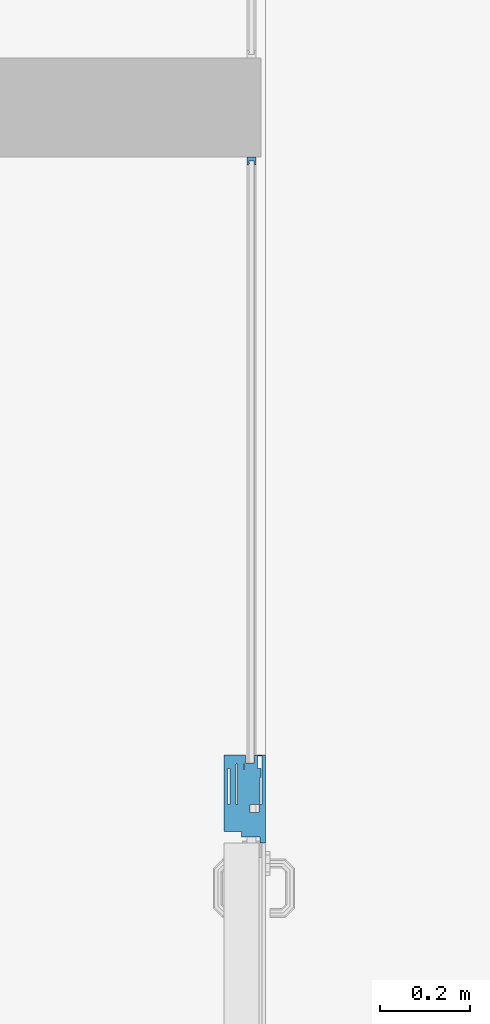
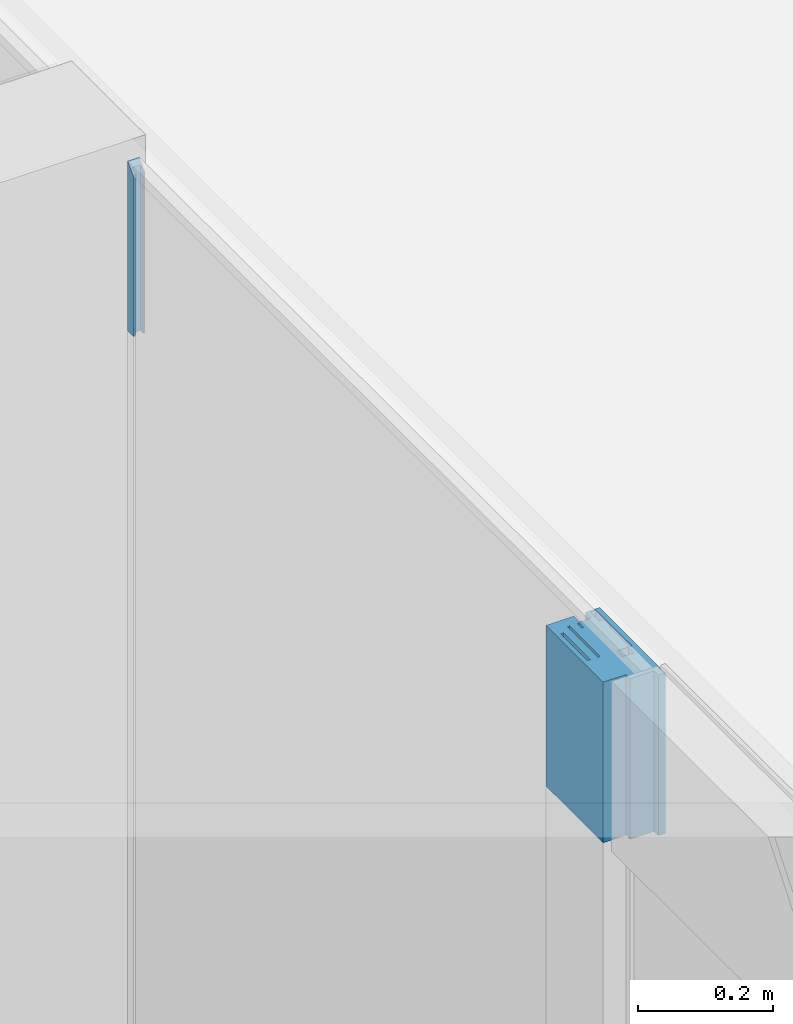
# One storey, part 16 of 79: 2 members, 1 element without a shape of its own.
"""IFC2X3 building model written with IfcOpenShell, lengths in millimetres."""

from ifc_helpers import new_model, entity, si_unit, converted_unit, derived_unit, money_unit, direction, frame, origin_with_axes, place, context, subcontext, project, spatial, faceted_brep, source, transform, mapped, material, material_list, type_object, element, aggregate, save


model = new_model("IFC2X3")

# Units and contexts
model_context = context("Model", 3, precision=0.01, world=origin_with_axes(), true_north=direction((0.0, 1.0)))
body_context = subcontext(model_context, "Body", "Model", "MODEL_VIEW")
ifc_project = project(units=[si_unit("LENGTHUNIT", "METRE", prefix="MILLI"), si_unit("AREAUNIT", "SQUARE_METRE"), si_unit("VOLUMEUNIT", "CUBIC_METRE"), converted_unit("PLANEANGLEUNIT", "DEGREE", entity("IfcPlaneAngleMeasure", 0.0174532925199), si_unit("PLANEANGLEUNIT", "RADIAN"), dimensions=[0, 0, 0, 0, 0, 0, 0]), si_unit("SOLIDANGLEUNIT", "STERADIAN"), money_unit("EUR"), converted_unit("TIMEUNIT", "Year", entity("IfcTimeMeasure", 31556926.0), si_unit("TIMEUNIT", "SECOND"), dimensions=[0, 0, 1, 0, 0, 0, 0]), si_unit("MASSUNIT", "GRAM", prefix="KILO"), si_unit("THERMODYNAMICTEMPERATUREUNIT", "DEGREE_CELSIUS"), si_unit("LUMINOUSINTENSITYUNIT", "LUMEN"), si_unit("ENERGYUNIT", "JOULE", prefix="MEGA"), derived_unit("THERMALCONDUCTANCEUNIT", [(si_unit("POWERUNIT", "WATT"), 1), (si_unit("LENGTHUNIT", "METRE"), -1), (si_unit("THERMODYNAMICTEMPERATUREUNIT", "KELVIN"), -1)]), derived_unit("SPECIFICHEATCAPACITYUNIT", [(si_unit("ENERGYUNIT", "JOULE"), 1), (si_unit("MASSUNIT", "GRAM", prefix="KILO"), -1), (si_unit("THERMODYNAMICTEMPERATUREUNIT", "KELVIN"), -1)]), derived_unit("MASSDENSITYUNIT", [(si_unit("MASSUNIT", "GRAM", prefix="KILO"), 1), (si_unit("VOLUMEUNIT", "CUBIC_METRE"), -1)])], contexts=[model_context])

# Site, building, storey
site_placement = place(None, origin_with_axes())
site = spatial("IfcSite", under=ifc_project, at=site_placement, Name="L.Koidula tn 11b", CompositionType="ELEMENT")
building_placement = place(site_placement, origin_with_axes())
building = spatial("IfcBuilding", under=site, at=building_placement, Name="Rakvere Riigigümnaasium", CompositionType="ELEMENT")
storey_placement = place(building_placement, frame((0.0, 0.0, 3720.0), z_axis=(0.0, 0.0, 1.0), x_axis=(1.0, 0.0, 0.0)))
storey = spatial("IfcBuildingStorey", under=building, at=storey_placement, Name="2.korrus +3,72", CompositionType="ELEMENT", Elevation=3720.0)

# Curtain wall, members
curtain_wall_type = type_object("IfcCurtainWallType", Name="Curtain Wall Type", PredefinedType="NOTDEFINED")
curtain_wall_placement = place(storey_placement, frame((41130.9157939, 20570.4555219, 2.41342252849e-05), z_axis=(0.0, 0.0, 1.0), x_axis=(1.0, 0.0, 0.0)))
curtain_wall = element("IfcCurtainWall", 1, at=curtain_wall_placement, inside=storey, type_object=curtain_wall_type, Name="SKLF-13")
ifc_material_1 = material(Name="Klaasvill")
ifc_material_2 = material(Name="Alumiiniumprofiil")
ifc_material_list_1 = material_list([ifc_material_1, ifc_material_2])
member_type_1 = type_object("IfcMemberType", Name="Boundary Frame 17 x 1", PredefinedType="MULLION")
shared_shape_1 = source(origin_with_axes(), body_context, "Body", "Brep", [
    faceted_brep([(-2.00001937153, -5.0, 0.0), (-2.00001937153, -5.0, 305.999980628), (-8.35001937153, -5.0, 299.649980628), (-8.35001937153, -5.0, 0.0), (-2.00001937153, 9.01614452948, 0.0), (-2.00001937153, 9.01614452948, 305.999980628), (-8.35001937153, 9.01614452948, 299.649980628), (-8.35001937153, 9.01614452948, 0.0)], [[[0, 1, 2, 3]], [[4, 5, 1, 0]], [[1, 5, 6, 2]], [[3, 2, 6, 7]], [[0, 3, 7, 4]], [[7, 6, 5, 4]]]),
    faceted_brep([(-11.987414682, 9.01614444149, 0.0), (-11.987414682, 9.01614444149, 296.012585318), (-12.004489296, 7.03075035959, 295.995510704), (-12.004489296, 7.03075035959, 0.0), (-15.5126239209, 9.01614444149, 0.0), (-15.5126239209, 9.01614444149, 292.487376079), (-15.7655837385, 8.03853257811, 292.234416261), (-15.4955493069, 7.03075035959, 292.504450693), (-14.75780152, 6.29300257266, 293.24219848), (-13.7500193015, 6.02296814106, 294.249980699), (-12.742237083, 6.29300257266, 295.257762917), (-12.742237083, 6.29300257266, 0.0), (-13.7500193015, 6.02296814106, 0.0), (-14.75780152, 6.29300257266, 0.0), (-15.4955493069, 7.03075035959, 0.0), (-15.7655837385, 8.03853257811, 0.0)], [[[0, 1, 2, 3]], [[4, 5, 1, 0]], [[1, 5, 6, 7, 8, 9, 10, 2]], [[3, 2, 10, 11]], [[0, 3, 11, 12, 13, 14, 15, 4]], [[15, 6, 5, 4]], [[14, 7, 6, 15]], [[13, 8, 7, 14]], [[12, 9, 8, 13]], [[11, 10, 9, 12]]]),
    faceted_brep([(0.0, -8.0, 0.0), (0.0, -8.0, 308.0), (-17.0000193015, -8.0, 290.999980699), (-17.0000193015, -8.0, 0.0), (0.0, 12.0, 0.0), (0.0, 12.0, 308.0), (-17.0000193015, 12.0, 290.999980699), (-17.0000193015, 9.01614444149, 290.999980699), (-15.5126239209, 9.01614444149, 292.487376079), (-11.987414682, 9.01614444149, 296.012585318), (-8.35001937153, 9.01614452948, 299.649980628), (-2.00001930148, 9.01614444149, 305.999980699), (-2.00001930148, -5.0, 305.999980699), (-8.35001937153, -5.0, 299.649980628), (-17.0000193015, -5.0, 290.999980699), (-17.0000193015, -5.0, 0.0), (-8.35001937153, -5.0, 0.0), (-2.00001930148, -5.0, 0.0), (-2.00001930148, 9.01614444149, 0.0), (-8.35001937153, 9.01614452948, 0.0), (-11.987414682, 9.01614444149, 0.0), (-15.5126239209, 9.01614444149, 0.0), (-17.0000193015, 9.01614444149, 0.0), (-17.0000193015, 12.0, 0.0)], [[[0, 1, 2, 3]], [[4, 5, 1, 0]], [[1, 5, 6, 7, 8, 9, 10, 11, 12, 13, 14, 2]], [[3, 2, 14, 15]], [[0, 3, 15, 16, 17, 18, 19, 20, 21, 22, 23, 4]], [[23, 6, 5, 4]], [[22, 7, 6, 23]], [[21, 8, 7, 22]], [[20, 9, 8, 21]], [[19, 10, 9, 20]], [[18, 11, 10, 19]], [[17, 12, 11, 18]], [[16, 13, 12, 17]], [[15, 14, 13, 16]]]),
])
member_1_placement = place(curtain_wall_placement, frame((0.0851877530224, 1990.00000339, 2199.99997587), z_axis=(0.0, 0.0, 1.0), x_axis=(-4.28079159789e-05, -0.999999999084, 0.0)))
member_1 = element("IfcMember", 2, at=member_1_placement, type_object=member_type_1, material=ifc_material_list_1, Name="PV-SKLF-20-raam", ObjectType="MULLION", context=body_context, shape_type="MappedRepresentation", body=[
    mapped(shared_shape_1, transform((0.0, 0.0, 0.0), x_axis=(-1.0, 0.0, 0.0), y_axis=(0.0, -1.0, 0.0), z_axis=(0.0, 0.0, 1.0))),
])
ifc_material_3 = material(Name="Puit")
ifc_material_4 = material(Name="MDF")
ifc_material_list_2 = material_list([ifc_material_3, ifc_material_4, ifc_material_1, ifc_material_2])
member_type_2 = type_object("IfcMemberType", Name="Siseklaasfassaad - Ukseraam-2 195 x 29", PredefinedType="MULLION")
shared_shape_2 = source(origin_with_axes(), body_context, "Body", "Brep", [
    faceted_brep([(0.0, 50.8404412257, 0.0), (0.0, 50.8404412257, 290.999980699), (0.0, -15.2764635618, 290.999980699), (0.0, -15.2764635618, 0.0), (-29.9999995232, 50.8404412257, 0.0), (-29.9999995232, 50.8404412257, 290.999980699), (-30.0000008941, 23.8404411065, 290.999980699), (-41.9954210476, 23.8404411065, 290.999980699), (-41.9954210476, -8.15955847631, 290.999980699), (-41.9954210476, -15.2764635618, 290.999980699), (-41.8573788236, -15.2764635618, 290.999980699), (-41.8573788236, -15.2764635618, 0.0), (-41.9954210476, -15.2764635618, 0.0), (-41.9954210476, -8.15955847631, 0.0), (-41.9954210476, 23.8404411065, 0.0), (-30.0000008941, 23.8404411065, 0.0)], [[[0, 1, 2, 3]], [[4, 5, 1, 0]], [[1, 5, 6, 7, 8, 9, 10, 2]], [[3, 2, 10, 11]], [[0, 3, 11, 12, 13, 14, 15, 4]], [[15, 6, 5, 4]], [[14, 7, 6, 15]], [[13, 8, 7, 14]], [[12, 9, 8, 13]], [[11, 10, 9, 12]]]),
    faceted_brep([(137.859682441, -21.159534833, 0.0), (137.859682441, -21.159534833, 290.999980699), (137.859682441, -29.159535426, 290.999980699), (137.859682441, -29.159535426, 0.0), (30.0029064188, -21.1595377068, 0.0), (30.0029064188, -21.1595377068, 290.999980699), (-52.9999994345, -21.1595377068, 290.999980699), (-52.9999994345, -29.1595584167, 290.999980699), (-52.9999994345, -29.1595584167, 0.0), (-52.9999994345, -21.1595377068, 0.0)], [[[0, 1, 2, 3]], [[4, 5, 1, 0]], [[1, 5, 6, 7, 2]], [[3, 2, 7, 8]], [[0, 3, 8, 9, 4]], [[9, 6, 5, 4]], [[8, 7, 6, 9]]]),
    faceted_brep([(137.859682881, 54.8404422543, 0.0), (137.859682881, 54.8404422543, 290.999980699), (121.188402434, 54.8405744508, 290.999980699), (121.188402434, 54.8405744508, 0.0), (137.859682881, 62.8404399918, 0.0), (137.859682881, 62.8404399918, 290.999980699), (-28.0000003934, 62.8404428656, 290.999980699), (-28.0000003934, 54.8404422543, 290.999980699), (-1.12771575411e-06, 54.8404422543, 290.999980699), (30.0029066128, 54.8404422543, 290.999980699), (109.859683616, 54.8405744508, 290.999980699), (109.859683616, 54.8405744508, 0.0), (30.0029066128, 54.8404422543, 0.0), (-1.12771575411e-06, 54.8404422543, 0.0), (-28.0000003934, 54.8404422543, 0.0), (-28.0000003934, 62.8404428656, 0.0)], [[[0, 1, 2, 3]], [[4, 5, 1, 0]], [[1, 5, 6, 7, 8, 9, 10, 2]], [[3, 2, 10, 11]], [[0, 3, 11, 12, 13, 14, 15, 4]], [[15, 6, 5, 4]], [[14, 7, 6, 15]], [[13, 8, 7, 14]], [[12, 9, 8, 13]], [[11, 10, 9, 12]]]),
    faceted_brep([(120.859682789, 33.3330734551, 0.0), (120.859682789, 33.3330734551, 290.999980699), (120.859682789, 20.34054937, 290.999980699), (120.859682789, 20.34054937, 0.0), (30.0029064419, 33.3311238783, 0.0), (30.0029064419, 33.3311238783, 290.999980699), (30.0029050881, 20.3386011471, 290.999980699), (107.859682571, 20.338601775, 290.999980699), (107.859682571, 20.338601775, 0.0), (30.0029050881, 20.3386011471, 0.0)], [[[0, 1, 2, 3]], [[4, 5, 1, 0]], [[1, 5, 6, 7, 2]], [[3, 2, 7, 8]], [[0, 3, 8, 9, 4]], [[9, 6, 5, 4]], [[8, 7, 6, 9]]]),
    faceted_brep([(120.859682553, 49.8405506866, 0.0), (120.859682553, 49.8405506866, 290.999980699), (120.859682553, 36.8405491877, 290.999980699), (120.859682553, 36.8405491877, 0.0), (109.8596833, 49.8405506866, 0.0), (109.8596833, 49.8405506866, 290.999980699), (30.0046927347, 49.8404410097, 290.999980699), (30.0046927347, 36.8404411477, 290.999980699), (30.0046927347, 36.8404411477, 0.0), (30.0046927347, 49.8404410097, 0.0)], [[[0, 1, 2, 3]], [[4, 5, 1, 0]], [[1, 5, 6, 7, 2]], [[3, 2, 7, 8]], [[0, 3, 8, 9, 4]], [[9, 6, 5, 4]], [[8, 7, 6, 9]]]),
    faceted_brep([(107.859682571, 20.338601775, 0.0), (107.859682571, 20.338601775, 290.999980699), (107.859682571, -5.15955767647, 290.999980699), (107.859682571, -5.15955767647, 0.0), (30.0029050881, 20.338601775, 0.0), (30.0029050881, 20.338601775, 290.999980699), (30.0029050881, 5.24044086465, 290.999980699), (30.0029050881, -15.1595587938, 290.999980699), (30.0029050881, -17.1595580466, 290.999980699), (89.8596820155, -17.1595604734, 290.999980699), (107.859682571, -17.1595604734, 290.999980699), (107.859682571, -11.1594268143, 290.999980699), (107.859682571, -11.1594268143, 0.0), (107.859682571, -17.1595604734, 0.0), (89.8596820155, -17.1595604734, 0.0), (30.0029050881, -17.1595580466, 0.0), (30.0029050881, -15.1595587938, 0.0), (30.0029050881, 5.24044086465, 0.0)], [[[0, 1, 2, 3]], [[4, 5, 1, 0]], [[1, 5, 6, 7, 8, 9, 10, 11, 2]], [[3, 2, 11, 12]], [[0, 3, 12, 13, 14, 15, 16, 17, 4]], [[17, 6, 5, 4]], [[16, 7, 6, 17]], [[15, 8, 7, 16]], [[14, 9, 8, 15]], [[13, 10, 9, 14]], [[12, 11, 10, 13]]]),
    faceted_brep([(30.0029058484, 54.8404413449, 0.0), (30.0029058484, 54.8404413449, 290.999980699), (30.0046927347, 49.8404410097, 290.999980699), (30.0046927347, 49.8404410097, 0.0), (0.0, 54.8404413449, 0.0), (0.0, 54.8404413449, 290.999980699), (-27.9999994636, 54.8404413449, 290.999980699), (-27.9999994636, 62.8404415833, 290.999980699), (-29.9999995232, 62.8404415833, 290.999980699), (-29.9999995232, 54.8404413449, 290.999980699), (-29.9999995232, 50.8404412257, 290.999980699), (0.0, 50.8404412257, 290.999980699), (0.0, -15.2764635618, 290.999980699), (-41.8573788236, -15.2764635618, 290.999980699), (-41.8573788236, -17.1595580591, 290.999980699), (-54.9999995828, -17.1595580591, 290.999980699), (-54.9999995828, -20.2336043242, 290.999980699), (-54.9999995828, -29.1595584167, 290.999980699), (-53.0000007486, -29.1595584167, 290.999980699), (-53.0000007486, -21.1595363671, 290.999980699), (30.0029058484, -21.1595363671, 290.999980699), (30.0029050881, -17.1595580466, 290.999980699), (30.0029058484, -15.1595579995, 290.999980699), (12.999999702, -15.1595579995, 290.999980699), (12.999999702, 5.24044206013, 290.999980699), (30.0029058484, 5.24044206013, 290.999980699), (30.0029050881, 20.3386011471, 290.999980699), (30.0029064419, 33.3311238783, 290.999980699), (30.0046927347, 36.8404411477, 290.999980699), (30.0046927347, 36.8404411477, 0.0), (30.0029064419, 33.3311238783, 0.0), (30.0029050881, 20.3386011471, 0.0), (30.0029058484, 5.24044206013, 0.0), (12.999999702, 5.24044206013, 0.0), (12.999999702, -15.1595579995, 0.0), (30.0029058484, -15.1595579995, 0.0), (30.0029050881, -17.1595580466, 0.0), (30.0029058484, -21.1595363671, 0.0), (-53.0000007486, -21.1595363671, 0.0), (-53.0000007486, -29.1595584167, 0.0), (-54.9999995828, -29.1595584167, 0.0), (-54.9999995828, -20.2336043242, 0.0), (-54.9999995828, -17.1595580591, 0.0), (-41.8573788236, -17.1595580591, 0.0), (-41.8573788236, -15.2764635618, 0.0), (0.0, -15.2764635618, 0.0), (0.0, 50.8404412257, 0.0), (-29.9999995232, 50.8404412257, 0.0), (-29.9999995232, 54.8404413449, 0.0), (-29.9999995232, 62.8404415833, 0.0), (-27.9999994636, 62.8404415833, 0.0), (-27.9999994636, 54.8404413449, 0.0)], [[[0, 1, 2, 3]], [[4, 5, 1, 0]], [[1, 5, 6, 7, 8, 9, 10, 11, 12, 13, 14, 15, 16, 17, 18, 19, 20, 21, 22, 23, 24, 25, 26, 27, 28, 2]], [[3, 2, 28, 29]], [[0, 3, 29, 30, 31, 32, 33, 34, 35, 36, 37, 38, 39, 40, 41, 42, 43, 44, 45, 46, 47, 48, 49, 50, 51, 4]], [[51, 6, 5, 4]], [[50, 7, 6, 51]], [[49, 8, 7, 50]], [[48, 9, 8, 49]], [[47, 10, 9, 48]], [[46, 11, 10, 47]], [[45, 12, 11, 46]], [[44, 13, 12, 45]], [[43, 14, 13, 44]], [[42, 15, 14, 43]], [[41, 16, 15, 42]], [[40, 17, 16, 41]], [[39, 18, 17, 40]], [[38, 19, 18, 39]], [[37, 20, 19, 38]], [[36, 21, 20, 37]], [[35, 22, 21, 36]], [[34, 23, 22, 35]], [[33, 24, 23, 34]], [[32, 25, 24, 33]], [[31, 26, 25, 32]], [[30, 27, 26, 31]], [[29, 28, 27, 30]]]),
    faceted_brep([(139.859682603, 62.8404415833, 0.0), (139.859682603, 62.8404415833, 290.999980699), (139.859682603, 15.2404414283, 290.999980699), (139.859682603, 15.2404414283, 0.0), (137.859683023, 62.8404415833, 0.0), (137.859683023, 62.8404415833, 290.999980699), (137.859681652, 54.8405734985, 290.999980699), (121.188400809, 54.8405734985, 290.999980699), (109.859683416, 54.8405734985, 290.999980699), (109.859683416, 53.8404414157, 290.999980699), (109.859683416, 49.8405505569, 290.999980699), (120.859681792, 49.8405505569, 290.999980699), (120.859682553, 36.8405491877, 290.999980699), (120.859682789, 33.3330734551, 290.999980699), (120.859682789, 20.34054937, 290.999980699), (120.859681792, 17.2404410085, 290.999980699), (107.859682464, 17.2404410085, 290.999980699), (107.859682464, -5.1595578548, 290.999980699), (107.859682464, -11.1594263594, 290.999980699), (107.859682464, -17.1595594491, 290.999980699), (89.8596821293, -17.1595594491, 290.999980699), (89.8596821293, -19.1595576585, 290.999980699), (107.859682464, -19.1595576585, 290.999980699), (109.859682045, -19.1595576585, 290.999980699), (109.859682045, -17.1595594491, 290.999980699), (109.859682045, -11.1594263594, 290.999980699), (137.859681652, -11.1594263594, 290.999980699), (137.859682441, -21.159534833, 290.999980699), (137.859681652, -29.1595363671, 290.999980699), (139.859682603, -29.1595363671, 290.999980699), (139.859682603, -5.1595578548, 290.999980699), (137.859681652, -5.1595578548, 290.999980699), (122.859682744, -5.1595578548, 290.999980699), (122.859682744, 15.2404414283, 290.999980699), (122.859682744, 15.2404414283, 0.0), (122.859682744, -5.1595578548, 0.0), (137.859681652, -5.1595578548, 0.0), (139.859682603, -5.1595578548, 0.0), (139.859682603, -29.1595363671, 0.0), (137.859681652, -29.1595363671, 0.0), (137.859682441, -21.159534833, 0.0), (137.859681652, -11.1594263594, 0.0), (109.859682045, -11.1594263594, 0.0), (109.859682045, -17.1595594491, 0.0), (109.859682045, -19.1595576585, 0.0), (107.859682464, -19.1595576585, 0.0), (89.8596821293, -19.1595576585, 0.0), (89.8596821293, -17.1595594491, 0.0), (107.859682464, -17.1595594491, 0.0), (107.859682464, -11.1594263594, 0.0), (107.859682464, -5.1595578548, 0.0), (107.859682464, 17.2404410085, 0.0), (120.859681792, 17.2404410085, 0.0), (120.859682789, 20.34054937, 0.0), (120.859682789, 33.3330734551, 0.0), (120.859682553, 36.8405491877, 0.0), (120.859681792, 49.8405505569, 0.0), (109.859683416, 49.8405505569, 0.0), (109.859683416, 53.8404414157, 0.0), (109.859683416, 54.8405734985, 0.0), (121.188400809, 54.8405734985, 0.0), (137.859681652, 54.8405734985, 0.0)], [[[0, 1, 2, 3]], [[4, 5, 1, 0]], [[1, 5, 6, 7, 8, 9, 10, 11, 12, 13, 14, 15, 16, 17, 18, 19, 20, 21, 22, 23, 24, 25, 26, 27, 28, 29, 30, 31, 32, 33, 2]], [[3, 2, 33, 34]], [[0, 3, 34, 35, 36, 37, 38, 39, 40, 41, 42, 43, 44, 45, 46, 47, 48, 49, 50, 51, 52, 53, 54, 55, 56, 57, 58, 59, 60, 61, 4]], [[61, 6, 5, 4]], [[60, 7, 6, 61]], [[59, 8, 7, 60]], [[58, 9, 8, 59]], [[57, 10, 9, 58]], [[56, 11, 10, 57]], [[55, 12, 11, 56]], [[54, 13, 12, 55]], [[53, 14, 13, 54]], [[52, 15, 14, 53]], [[51, 16, 15, 52]], [[50, 17, 16, 51]], [[49, 18, 17, 50]], [[48, 19, 18, 49]], [[47, 20, 19, 48]], [[46, 21, 20, 47]], [[45, 22, 21, 46]], [[44, 23, 22, 45]], [[43, 24, 23, 44]], [[42, 25, 24, 43]], [[41, 26, 25, 42]], [[40, 27, 26, 41]], [[39, 28, 27, 40]], [[38, 29, 28, 39]], [[37, 30, 29, 38]], [[36, 31, 30, 37]], [[35, 32, 31, 36]], [[34, 33, 32, 35]]]),
])
member_2_placement = place(curtain_wall_placement, frame((0.0222601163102, 519.999999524, 2199.99997587), z_axis=(0.0, 0.0, 1.0), x_axis=(-4.28079159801e-05, -0.999999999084, 0.0)))
member_2 = element("IfcMember", 3, at=member_2_placement, type_object=member_type_2, material=ifc_material_list_2, Name="Frame-Siseklaasf-005", ObjectType="MULLION", context=body_context, shape_type="MappedRepresentation", body=[
    mapped(shared_shape_2, transform((0.0, 0.0, 0.0), x_axis=(-1.0, 0.0, 0.0), y_axis=(0.0, -1.0, 0.0), z_axis=(0.0, 0.0, 1.0))),
])
aggregate(curtain_wall, [member_2, member_1])

save(model, "model.ifc")
